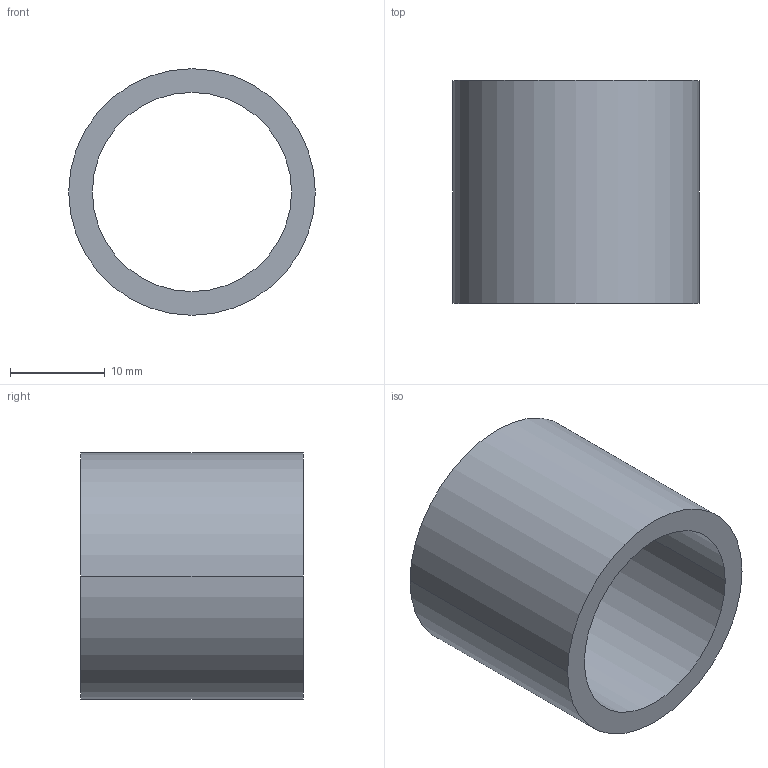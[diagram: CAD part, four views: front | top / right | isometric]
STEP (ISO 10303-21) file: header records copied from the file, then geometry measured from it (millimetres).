
FILE_DESCRIPTION (( 'STEP AP214' ), '1' );
FILE_NAME ('QIGANG.step', '2025-12-23T15:53:23', ( '' ), ( '' ), 'SwSTEP 2.0', 'SolidWorks 2026', '' );
FILE_SCHEMA (( 'AUTOMOTIVE_DESIGN' ));
Length unit declared in the file: inch
Products named in the file (1): QIGANG
Bounding box: 26 x 23.5 x 26 mm (x, y, z)
Volume: 4337.4 mm3; surface area: 3839 mm2
Topology: 1 solids, 1 shells, 6 faces, 12 edges, 8 vertices
Faces by surface type: cylinder 4, plane 2
Entity records: 195 total; most frequent: DIRECTION 34, CARTESIAN_POINT 27, ORIENTED_EDGE 24, AXIS2_PLACEMENT_3D 15, EDGE_CURVE 12, VERTEX_POINT 8, CIRCLE 8, EDGE_LOOP 8
